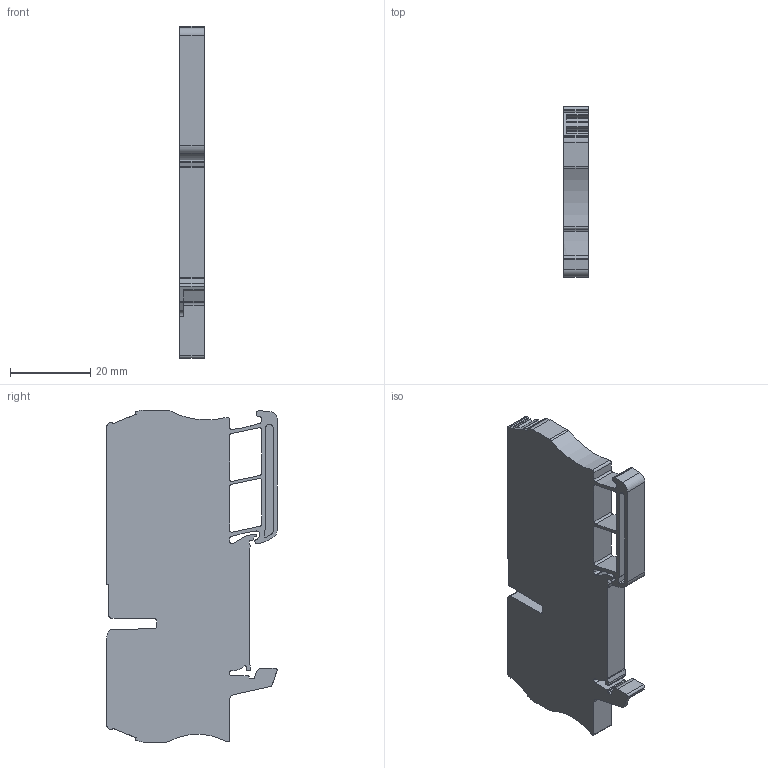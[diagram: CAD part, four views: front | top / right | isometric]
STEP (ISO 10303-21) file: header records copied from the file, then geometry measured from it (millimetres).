
FILE_DESCRIPTION( ( '' ), '1' );
FILE_NAME( '//expscmdclustefs.cadenas.external/client_exchange/iodir/jobs/output/wkb54603060_no0/STEP/ZDU_4_3AN_7904180000_2_03.stp', '2013-02-19T15:58:12', ( '' ), ( '' ), ' ', ' ', ' ' );
FILE_SCHEMA( ( 'CONFIG_CONTROL_DESIGN' ) );
Length unit declared in the file: millimetre
Products named in the file (1): 1
Bounding box: 6.1 x 42.6 x 82.99 mm (x, y, z)
Volume: 15446.1 mm3; surface area: 9207.9 mm2
Topology: 1 solids, 1 shells, 286 faces, 833 edges, 554 vertices
Faces by surface type: plane 162, cylinder 122, cone 2
Entity records: 9593 total; most frequent: CARTESIAN_POINT 1752, ORIENTED_EDGE 1666, DIRECTION 1637, EDGE_CURVE 833, LINE 579, VECTOR 579, VERTEX_POINT 554, AXIS2_PLACEMENT_3D 529
